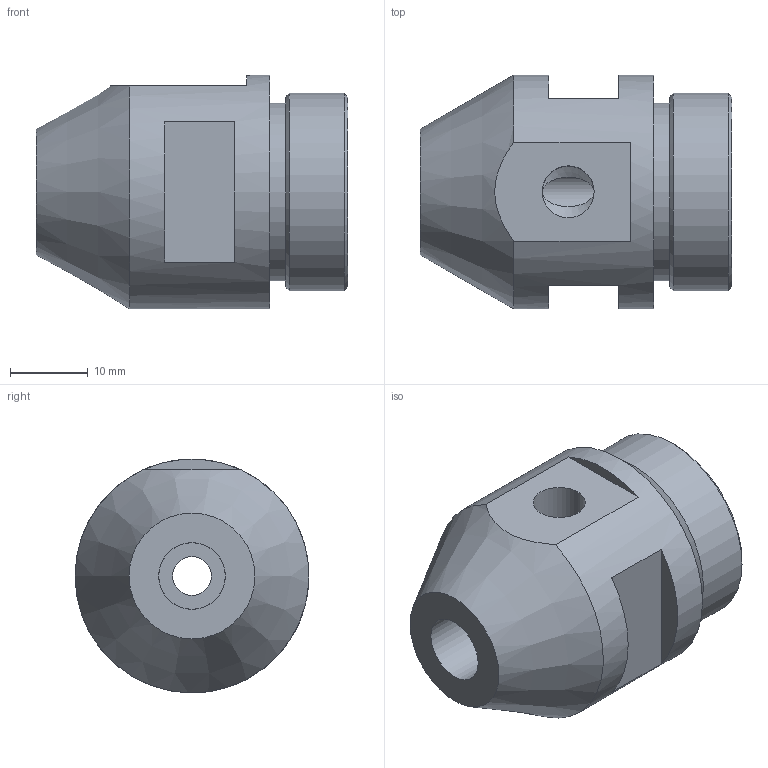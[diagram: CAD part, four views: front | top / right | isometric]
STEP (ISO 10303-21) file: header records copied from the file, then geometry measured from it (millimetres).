
FILE_DESCRIPTION((''),'2;1');
FILE_NAME('C:\3D Projects\97295 Sensor Adapter For 97113 & 97114.stp','2011-02-03T07:30:12',('patch'),(''),'Autodesk Inventor 2011','Autodesk Inventor 2011','');
FILE_SCHEMA(('AUTOMOTIVE_DESIGN { 1 0 10303 214 1 1 1 1 }'));
Length unit declared in the file: inch
Products named in the file (1): 97295 Sensor Adapter For 97113 & 97114
Bounding box: 40 x 30 x 30 mm (x, y, z)
Volume: 19577.7 mm3; surface area: 5741.7 mm2
Topology: 1 solids, 1 shells, 27 faces, 57 edges, 37 vertices
Faces by surface type: plane 14, cylinder 8, cone 5
Full cylindrical faces by diameter (mm): 5 x1, 6.655 x1, 8.534 x1, 8.56 x1, 9 x1, 22.8 x1, 25.3 x1, 30 x1
Entity records: 689 total; most frequent: CARTESIAN_POINT 143, DIRECTION 115, ORIENTED_EDGE 76, AXIS2_PLACEMENT_3D 52, EDGE_LOOP 50, EDGE_CURVE 38, VERTEX_POINT 32, FACE_OUTER_BOUND 27
